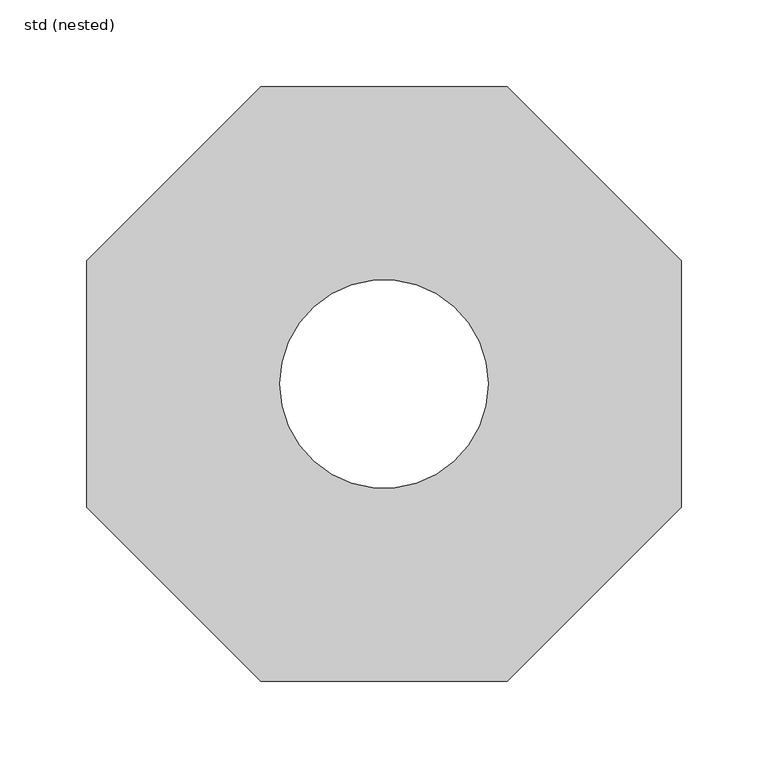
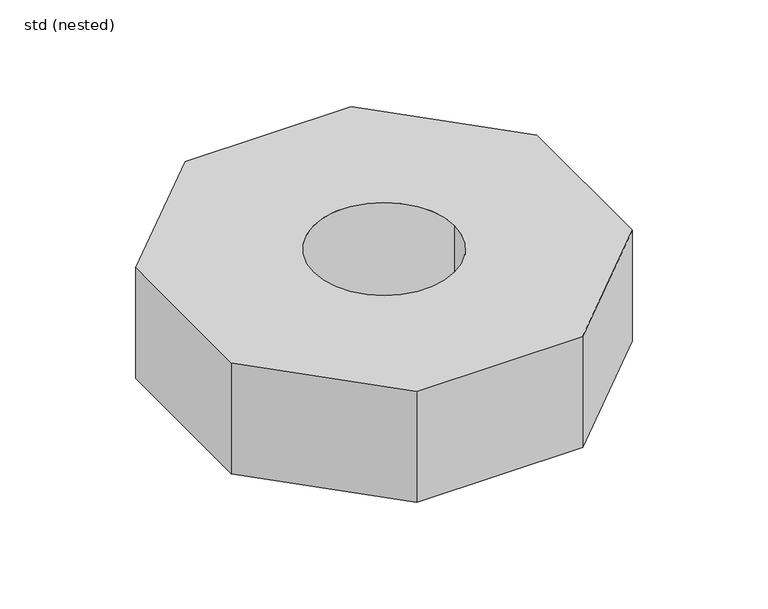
"""IFC4 building model written with IfcOpenShell, lengths in millimetres: sanitary terminal geometry, ZZZ_do not use_PF_CG_insulating body_ACO : std (nested)."""

from ifc_helpers import new_model, si_unit, point, frame, origin, origin_2d, place, context, project, spatial, polyline, circle_curve, trimmed, segment, composite_curve, outline, extrude, source, transform, mapped, element, save


def std_nested_b6c5579d(model_context):
    return source(origin(), model_context, "Body", "SweptSolid", [
        extrude(outline(polyline([(70.8305192, 171.0), (171.0, 70.8305192), (171.0, -70.8305192), (70.8305192, -171.0), (-70.8305192, -171.0), (-171.0, -70.8305192), (-171.0, 70.8305192), (-70.8305192, 171.0), (70.8305192, 171.0)]), holes=[composite_curve([segment(trimmed(circle_curve(origin_2d(), 60.0), [point((-60.0, 0.0))], [point((60.0, 0.0))], True, "CARTESIAN"), True, "CONTINUOUS"), segment(trimmed(circle_curve(origin_2d(), 60.0), [point((60.0, 0.0))], [point((-60.0, 0.0))], True, "CARTESIAN"), True, "CONTINUOUS")], self_intersect=False)]), frame((0.0, 0.0, -100.0), z_axis=(0.0, 0.0, 1.0), x_axis=(1.0, 0.0, 0.0)), (0.0, 0.0, 1.0), 100.0),
    ])


if __name__ == "__main__":
    model = new_model("IFC4")
    model_context = context("Model", 3, world=origin())
    ifc_project = project(units=[si_unit("LENGTHUNIT", "METRE", prefix="MILLI")], contexts=[model_context])
    site = spatial("IfcSite", under=ifc_project)
    building = spatial("IfcBuilding", under=site)
    placement = place(None, origin())
    std_nested_shape = std_nested_b6c5579d(model_context)
    element("IfcSanitaryTerminal", 1, ObjectType="ZZZ_do not use_PF_CG_insulating body_ACO : std (nested)", at=placement, inside=building, context=model_context, shape_type="MappedRepresentation", body=[
        mapped(std_nested_shape, transform((0.0, 0.0, 0.0), x_axis=(1.0, 0.0, 0.0), y_axis=(0.0, 1.0, 0.0), z_axis=(0.0, 0.0, 1.0))),
    ])
    save(model, "model.ifc")
